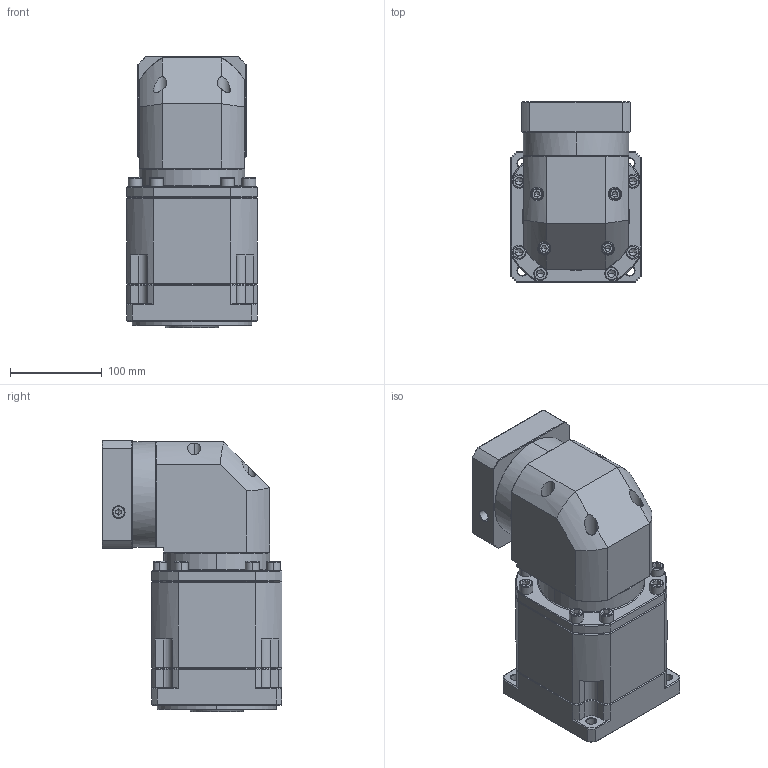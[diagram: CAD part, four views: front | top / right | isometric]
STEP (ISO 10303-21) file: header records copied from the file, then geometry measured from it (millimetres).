
FILE_DESCRIPTION (( 'STEP AP214' ), '1' );
FILE_NAME ('ZBR142A-K35-L3-P2-24-95-115-M6.step', '2023-09-02T08:15:32', ( '' ), ( '' ), 'SwSTEP 2.0', 'SolidWorks 2016', '' );
FILE_SCHEMA (( 'AUTOMOTIVE_DESIGN' ));
Length unit declared in the file: millimetre
Products named in the file (1): ZBR142A-K35-L3-P2-24-95-115-M6
Bounding box: 142 x 195.9 x 295.2 mm (x, y, z)
Volume: 4885902.8 mm3; surface area: 322874.6 mm2
Topology: 6 solids, 6 shells, 2515 faces, 6530 edges, 4139 vertices
Faces by surface type: plane 1224, cylinder 450, bspline 407, cone 390, torus 44
Entity records: 130555 total; most frequent: CARTESIAN_POINT 44541, ORIENTED_EDGE 12956, DIRECTION 10644, EDGE_CURVE 6478, VECTOR 4192, LINE 4192, VERTEX_POINT 4139, AXIS2_PLACEMENT_3D 3226
